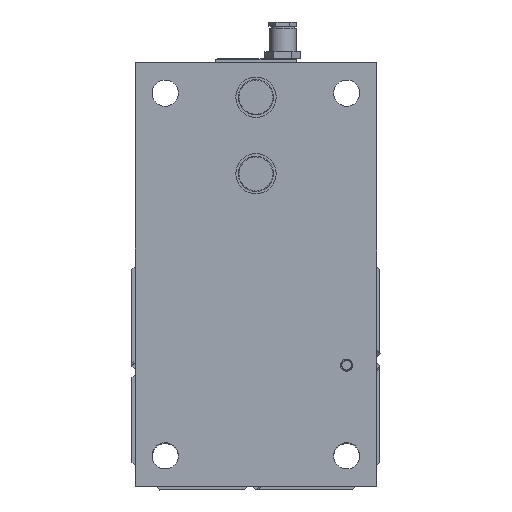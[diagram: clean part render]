
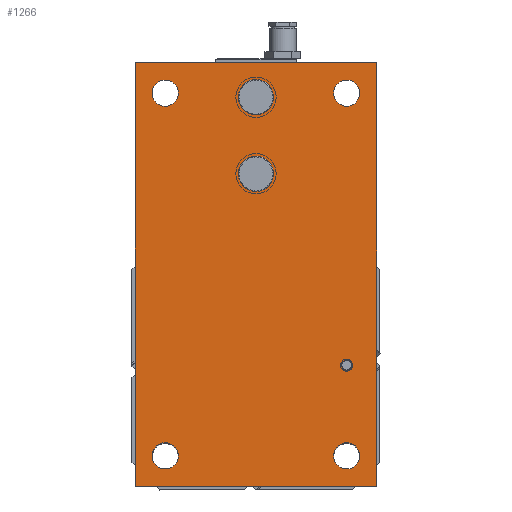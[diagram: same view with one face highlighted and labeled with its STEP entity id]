
A CAD part, front view. The second image highlights one B-rep face of the part: STEP entity #1266.
In plain terms, the highlighted planar face has unit normal (0, -1, 0) as drawn and (0, 0, -1) by its records, which use the part's own axes.
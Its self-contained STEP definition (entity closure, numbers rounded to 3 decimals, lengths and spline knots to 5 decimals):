
#1266=ADVANCED_FACE('0:3898',(#2295,#2296,#2297,#2298,#2299,#2300,#2301,#2302),#2303,.F.);
#2295=FACE_OUTER_BOUND('',#8503,.T.);
#2296=FACE_BOUND('',#8504,.T.);
#2297=FACE_BOUND('',#8505,.T.);
#2298=FACE_BOUND('',#8506,.T.);
#2299=FACE_BOUND('',#8507,.T.);
#2300=FACE_BOUND('',#8508,.T.);
#2301=FACE_BOUND('',#8509,.T.);
#2302=FACE_BOUND('',#8510,.T.);
#2303=PLANE('',#8511);
#8503=EDGE_LOOP('',(#12098,#12099,#12100,#12101));
#8504=EDGE_LOOP('',(#12102,#12103));
#8505=EDGE_LOOP('',(#12104,#12105));
#8506=EDGE_LOOP('',(#12106,#12107));
#8507=EDGE_LOOP('',(#12108,#12109));
#8508=EDGE_LOOP('',(#12110,#12111));
#8509=EDGE_LOOP('',(#12112,#12113));
#8510=EDGE_LOOP('',(#12114,#12115));
#8511=AXIS2_PLACEMENT_3D('',#12116,#12117,#12118);
#12098=ORIENTED_EDGE('',*,*,#13542,.T.);
#12099=ORIENTED_EDGE('',*,*,#13543,.T.);
#12100=ORIENTED_EDGE('',*,*,#13544,.T.);
#12101=ORIENTED_EDGE('',*,*,#13545,.T.);
#12102=ORIENTED_EDGE('',*,*,#13501,.T.);
#12103=ORIENTED_EDGE('',*,*,#13541,.T.);
#12104=ORIENTED_EDGE('',*,*,#13505,.T.);
#12105=ORIENTED_EDGE('',*,*,#13539,.T.);
#12106=ORIENTED_EDGE('',*,*,#13509,.T.);
#12107=ORIENTED_EDGE('',*,*,#13537,.T.);
#12108=ORIENTED_EDGE('',*,*,#13534,.F.);
#12109=ORIENTED_EDGE('',*,*,#13515,.F.);
#12110=ORIENTED_EDGE('',*,*,#13530,.F.);
#12111=ORIENTED_EDGE('',*,*,#13523,.F.);
#12112=ORIENTED_EDGE('',*,*,#13532,.F.);
#12113=ORIENTED_EDGE('',*,*,#13519,.F.);
#12114=ORIENTED_EDGE('',*,*,#13528,.F.);
#12115=ORIENTED_EDGE('',*,*,#13527,.F.);
#12116=CARTESIAN_POINT('',(0.0,0.0,0.0));
#12117=DIRECTION('',(0.0,0.0,1.0));
#12118=DIRECTION('',(1.0,0.0,0.0));
#13501=EDGE_CURVE('0:3955',#15412,#15409,#15413,.T.);
#13505=EDGE_CURVE('0:3949',#15420,#15417,#15421,.T.);
#13509=EDGE_CURVE('0:3943',#15428,#15425,#15429,.F.);
#13515=EDGE_CURVE('0:3934',#15438,#15434,#15440,.F.);
#13519=EDGE_CURVE('0:3928',#15446,#15442,#15448,.F.);
#13523=EDGE_CURVE('0:3922',#15454,#15450,#15456,.F.);
#13527=EDGE_CURVE('0:3916',#15462,#15458,#15464,.F.);
#13528=EDGE_CURVE('0:3916',#15458,#15462,#15465,.F.);
#13530=EDGE_CURVE('0:3922',#15450,#15454,#15467,.F.);
#13532=EDGE_CURVE('0:3928',#15442,#15446,#15469,.F.);
#13534=EDGE_CURVE('0:3934',#15434,#15438,#15471,.F.);
#13537=EDGE_CURVE('0:3943',#15425,#15428,#15474,.F.);
#13539=EDGE_CURVE('0:3949',#15417,#15420,#15476,.T.);
#13541=EDGE_CURVE('0:3955',#15409,#15412,#15478,.T.);
#13542=EDGE_CURVE('0:3958',#15479,#15480,#15481,.T.);
#13543=EDGE_CURVE('0:3961',#15480,#15482,#15483,.T.);
#13544=EDGE_CURVE('0:3964',#15482,#15484,#15485,.T.);
#13545=EDGE_CURVE('0:3967',#15484,#15479,#15486,.T.);
#15409=VERTEX_POINT('',#19224);
#15412=VERTEX_POINT('',#19228);
#15413=CIRCLE('',#19229,0.00875);
#15417=VERTEX_POINT('',#19234);
#15420=VERTEX_POINT('',#19238);
#15421=CIRCLE('',#19239,0.00875);
#15425=VERTEX_POINT('',#19244);
#15428=VERTEX_POINT('',#19248);
#15429=CIRCLE('',#19249,0.0025);
#15434=VERTEX_POINT('',#19255);
#15438=VERTEX_POINT('',#19260);
#15440=CIRCLE('',#19263,0.0065);
#15442=VERTEX_POINT('',#19265);
#15446=VERTEX_POINT('',#19270);
#15448=CIRCLE('',#19273,0.0065);
#15450=VERTEX_POINT('',#19275);
#15454=VERTEX_POINT('',#19280);
#15456=CIRCLE('',#19283,0.0065);
#15458=VERTEX_POINT('',#19285);
#15462=VERTEX_POINT('',#19290);
#15464=CIRCLE('',#19293,0.0065);
#15465=CIRCLE('',#19294,0.0065);
#15467=CIRCLE('',#19296,0.0065);
#15469=CIRCLE('',#19298,0.0065);
#15471=CIRCLE('',#19300,0.0065);
#15474=CIRCLE('',#19303,0.0025);
#15476=CIRCLE('',#19305,0.00875);
#15478=CIRCLE('',#19307,0.00875);
#15479=VERTEX_POINT('',#19308);
#15480=VERTEX_POINT('',#19309);
#15481=LINE('',#19310,#19311);
#15482=VERTEX_POINT('',#19312);
#15483=LINE('',#19313,#19314);
#15484=VERTEX_POINT('',#19315);
#15485=LINE('',#19316,#19317);
#15486=LINE('',#19318,#19319);
#19224=CARTESIAN_POINT('',(-0.05875,0.,0.0));
#19228=CARTESIAN_POINT('',(-0.04125,0.,0.0));
#19229=AXIS2_PLACEMENT_3D('',#21347,#21348,#21349);
#19234=CARTESIAN_POINT('',(-0.09675,0.,0.0));
#19238=CARTESIAN_POINT('',(-0.07925,0.,0.0));
#19239=AXIS2_PLACEMENT_3D('',#21355,#21356,#21357);
#19244=CARTESIAN_POINT('',(0.0425,-0.045,0.0));
#19248=CARTESIAN_POINT('',(0.0475,-0.045,0.0));
#19249=AXIS2_PLACEMENT_3D('',#21363,#21364,#21365);
#19255=CARTESIAN_POINT('',(0.0965,-0.045,0.0));
#19260=CARTESIAN_POINT('',(0.0835,-0.045,0.0));
#19263=AXIS2_PLACEMENT_3D('',#21375,#21376,#21377);
#19265=CARTESIAN_POINT('',(-0.0835,-0.045,0.0));
#19270=CARTESIAN_POINT('',(-0.0965,-0.045,0.0));
#19273=AXIS2_PLACEMENT_3D('',#21383,#21384,#21385);
#19275=CARTESIAN_POINT('',(-0.0835,0.045,0.0));
#19280=CARTESIAN_POINT('',(-0.0965,0.045,0.0));
#19283=AXIS2_PLACEMENT_3D('',#21391,#21392,#21393);
#19285=CARTESIAN_POINT('',(0.0965,0.045,0.0));
#19290=CARTESIAN_POINT('',(0.0835,0.045,0.0));
#19293=AXIS2_PLACEMENT_3D('',#21399,#21400,#21401);
#19294=AXIS2_PLACEMENT_3D('',#21402,#21403,#21404);
#19296=AXIS2_PLACEMENT_3D('',#21408,#21409,#21410);
#19298=AXIS2_PLACEMENT_3D('',#21414,#21415,#21416);
#19300=AXIS2_PLACEMENT_3D('',#21420,#21421,#21422);
#19303=AXIS2_PLACEMENT_3D('',#21429,#21430,#21431);
#19305=AXIS2_PLACEMENT_3D('',#21435,#21436,#21437);
#19307=AXIS2_PLACEMENT_3D('',#21441,#21442,#21443);
#19308=CARTESIAN_POINT('',(-0.105,-0.06,0.0));
#19309=CARTESIAN_POINT('',(-0.105,0.06,0.0));
#19310=CARTESIAN_POINT('',(-0.105,0.0,0.0));
#19311=VECTOR('',#21444,1.0);
#19312=CARTESIAN_POINT('',(0.105,0.06,0.0));
#19313=CARTESIAN_POINT('',(-0.08,0.06,0.0));
#19314=VECTOR('',#21445,1.0);
#19315=CARTESIAN_POINT('',(0.105,-0.06,0.0));
#19316=CARTESIAN_POINT('',(0.105,0.0,0.0));
#19317=VECTOR('',#21446,1.0);
#19318=CARTESIAN_POINT('',(0.08,-0.06,0.0));
#19319=VECTOR('',#21447,1.0);
#21347=CARTESIAN_POINT('',(-0.05,0.0,0.0));
#21348=DIRECTION('',(0.0,0.0,1.0));
#21349=DIRECTION('',(-1.0,0.0,0.0));
#21355=CARTESIAN_POINT('',(-0.088,0.0,0.0));
#21356=DIRECTION('',(0.0,0.0,1.0));
#21357=DIRECTION('',(-1.0,0.0,0.0));
#21363=CARTESIAN_POINT('',(0.045,-0.045,0.0));
#21364=DIRECTION('',(0.0,0.0,-1.0));
#21365=DIRECTION('',(-1.0,0.0,0.0));
#21375=CARTESIAN_POINT('',(0.09,-0.045,0.0));
#21376=DIRECTION('',(0.0,0.0,1.0));
#21377=DIRECTION('',(1.0,0.0,0.0));
#21383=CARTESIAN_POINT('',(-0.09,-0.045,0.0));
#21384=DIRECTION('',(0.0,0.0,1.0));
#21385=DIRECTION('',(1.0,0.0,0.0));
#21391=CARTESIAN_POINT('',(-0.09,0.045,0.0));
#21392=DIRECTION('',(0.0,0.0,1.0));
#21393=DIRECTION('',(1.0,0.0,0.0));
#21399=CARTESIAN_POINT('',(0.09,0.045,0.0));
#21400=DIRECTION('',(0.0,0.0,1.0));
#21401=DIRECTION('',(1.0,0.0,0.0));
#21402=CARTESIAN_POINT('',(0.09,0.045,0.0));
#21403=DIRECTION('',(0.0,0.0,1.0));
#21404=DIRECTION('',(1.0,0.0,0.0));
#21408=CARTESIAN_POINT('',(-0.09,0.045,0.0));
#21409=DIRECTION('',(0.0,0.0,1.0));
#21410=DIRECTION('',(1.0,0.0,0.0));
#21414=CARTESIAN_POINT('',(-0.09,-0.045,0.0));
#21415=DIRECTION('',(0.0,0.0,1.0));
#21416=DIRECTION('',(1.0,0.0,0.0));
#21420=CARTESIAN_POINT('',(0.09,-0.045,0.0));
#21421=DIRECTION('',(0.0,0.0,1.0));
#21422=DIRECTION('',(1.0,0.0,0.0));
#21429=CARTESIAN_POINT('',(0.045,-0.045,0.0));
#21430=DIRECTION('',(0.0,0.0,-1.0));
#21431=DIRECTION('',(-1.0,0.0,0.0));
#21435=CARTESIAN_POINT('',(-0.088,0.0,0.0));
#21436=DIRECTION('',(0.0,0.0,1.0));
#21437=DIRECTION('',(-1.0,0.0,0.0));
#21441=CARTESIAN_POINT('',(-0.05,0.0,0.0));
#21442=DIRECTION('',(0.0,0.0,1.0));
#21443=DIRECTION('',(-1.0,0.0,0.0));
#21444=DIRECTION('',(0.0,1.0,-0.0));
#21445=DIRECTION('',(1.0,0.0,0.0));
#21446=DIRECTION('',(0.0,-1.0,0.0));
#21447=DIRECTION('',(-1.0,0.0,0.0));
